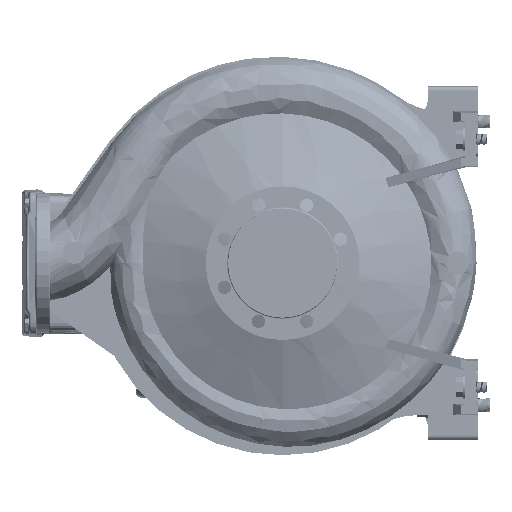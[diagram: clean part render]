
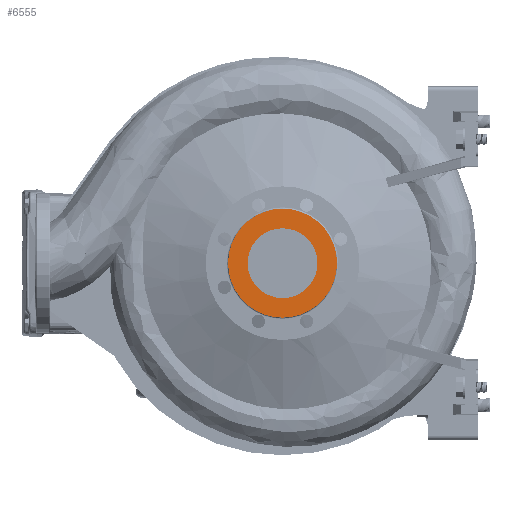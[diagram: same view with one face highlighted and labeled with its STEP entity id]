
A CAD part, left-side view. The second image highlights one B-rep face of the part: STEP entity #6555.
In plain terms, the highlighted planar face has unit normal (-1, 0, 0).
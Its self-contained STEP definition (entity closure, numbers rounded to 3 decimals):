
#713 = ORIENTED_EDGE ( 'NONE', *, *, #128358, .T. ) ;
#6555 = ADVANCED_FACE ( 'NONE', ( #120975, #134140 ), #77705, .F. ) ;
#16599 = EDGE_CURVE ( 'NONE', #155804, #130590, #35461, .T. ) ;
#17363 = AXIS2_PLACEMENT_3D ( 'NONE', #49132, #106513, #22822 ) ;
#22822 = DIRECTION ( 'NONE',  ( 0., 0., 1. ) ) ;
#27984 = CARTESIAN_POINT ( 'NONE',  ( -125., 0., 0. ) ) ;
#31472 = EDGE_LOOP ( 'NONE', ( #713, #90287 ) ) ;
#32604 = DIRECTION ( 'NONE',  ( 1., 0., 0. ) ) ;
#35461 = CIRCLE ( 'NONE', #17363, 50. ) ;
#36425 = AXIS2_PLACEMENT_3D ( 'NONE', #106898, #105034, #76812 ) ;
#36492 = VERTEX_POINT ( 'NONE', #133318 ) ;
#39742 = ORIENTED_EDGE ( 'NONE', *, *, #101801, .F. ) ;
#41243 = CIRCLE ( 'NONE', #161256, 78. ) ;
#49132 = CARTESIAN_POINT ( 'NONE',  ( -125., 0., 0. ) ) ;
#50131 = CIRCLE ( 'NONE', #170325, 50. ) ;
#54405 = CIRCLE ( 'NONE', #36425, 78. ) ;
#54854 = AXIS2_PLACEMENT_3D ( 'NONE', #135075, #32604, #129747 ) ;
#56172 = DIRECTION ( 'NONE',  ( 0., 0., 1. ) ) ;
#59760 = EDGE_CURVE ( 'NONE', #36492, #123028, #41243, .T. ) ;
#59780 = CARTESIAN_POINT ( 'NONE',  ( -125., 0., 78. ) ) ;
#69185 = CARTESIAN_POINT ( 'NONE',  ( -125., 0., 0. ) ) ;
#73678 = EDGE_LOOP ( 'NONE', ( #39742, #163012 ) ) ;
#76812 = DIRECTION ( 'NONE',  ( 0., 0., 1. ) ) ;
#77705 = PLANE ( 'NONE',  #54854 ) ;
#83480 = DIRECTION ( 'NONE',  ( -1., 0., 0. ) ) ;
#84221 = DIRECTION ( 'NONE',  ( 0., 0., 1. ) ) ;
#90287 = ORIENTED_EDGE ( 'NONE', *, *, #59760, .T. ) ;
#94078 = CARTESIAN_POINT ( 'NONE',  ( -125., 0., -50. ) ) ;
#95757 = CARTESIAN_POINT ( 'NONE',  ( -125., 0., 50. ) ) ;
#101801 = EDGE_CURVE ( 'NONE', #130590, #155804, #50131, .T. ) ;
#105034 = DIRECTION ( 'NONE',  ( -1., 0., 0. ) ) ;
#106513 = DIRECTION ( 'NONE',  ( -1., 0., 0. ) ) ;
#106898 = CARTESIAN_POINT ( 'NONE',  ( -125., 0., 0. ) ) ;
#120975 = FACE_BOUND ( 'NONE', #73678, .T. ) ;
#123028 = VERTEX_POINT ( 'NONE', #59780 ) ;
#128358 = EDGE_CURVE ( 'NONE', #123028, #36492, #54405, .T. ) ;
#129747 = DIRECTION ( 'NONE',  ( 0., 0., -1. ) ) ;
#130590 = VERTEX_POINT ( 'NONE', #95757 ) ;
#133318 = CARTESIAN_POINT ( 'NONE',  ( -125., 0., -78. ) ) ;
#134140 = FACE_OUTER_BOUND ( 'NONE', #31472, .T. ) ;
#135075 = CARTESIAN_POINT ( 'NONE',  ( -125., 78., 0. ) ) ;
#155804 = VERTEX_POINT ( 'NONE', #94078 ) ;
#161256 = AXIS2_PLACEMENT_3D ( 'NONE', #27984, #83480, #56172 ) ;
#163012 = ORIENTED_EDGE ( 'NONE', *, *, #16599, .F. ) ;
#170325 = AXIS2_PLACEMENT_3D ( 'NONE', #69185, #184849, #84221 ) ;
#184849 = DIRECTION ( 'NONE',  ( -1., 0., 0. ) ) ;
